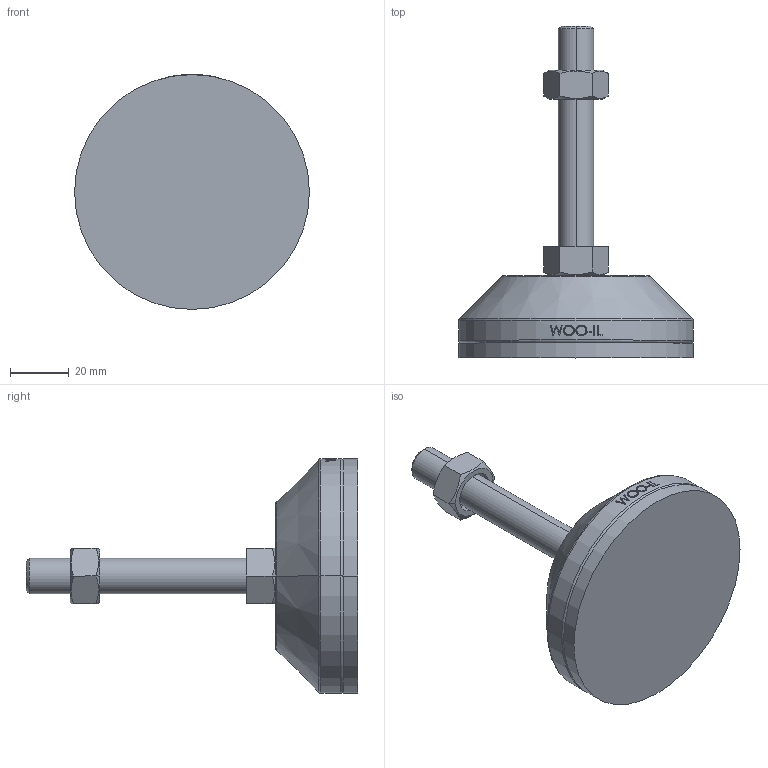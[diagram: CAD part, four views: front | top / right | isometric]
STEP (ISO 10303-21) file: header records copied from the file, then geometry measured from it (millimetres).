
FILE_DESCRIPTION (( 'STEP AP214' ), '1' );
FILE_NAME ('NHNR80-M12-75.step', '2021-01-25T06:21:22', ( '' ), ( '' ), 'SwSTEP 2.0', 'SolidWorks 2019', '' );
FILE_SCHEMA (( 'AUTOMOTIVE_DESIGN' ));
Length unit declared in the file: millimetre
Products named in the file (2): NHNR80-M12-75
Bounding box: 80 x 113 x 80 mm (x, y, z)
Volume: 128744.4 mm3; surface area: 30216.8 mm2
Topology: 4 solids, 4 shells, 105 faces, 239 edges, 152 vertices
Faces by surface type: plane 49, cylinder 18, bspline 16, cone 14, torus 8
Entity records: 4363 total; most frequent: CARTESIAN_POINT 2046, ORIENTED_EDGE 478, DIRECTION 429, EDGE_CURVE 239, AXIS2_PLACEMENT_3D 165, VERTEX_POINT 152, EDGE_LOOP 117, FACE_OUTER_BOUND 105
